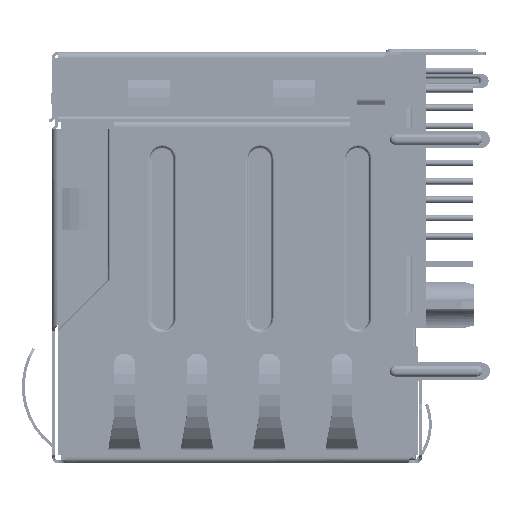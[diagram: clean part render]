
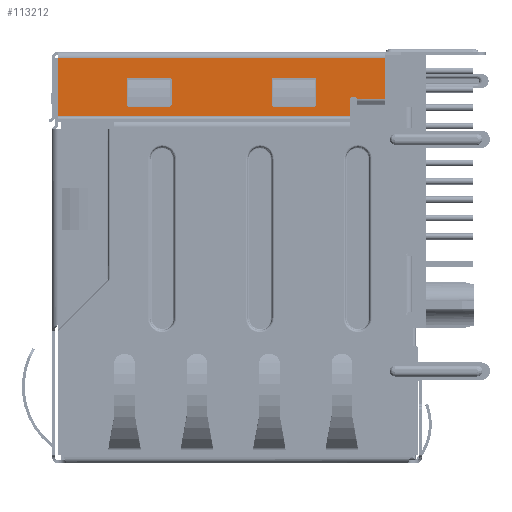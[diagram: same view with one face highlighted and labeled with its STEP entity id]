
A CAD part, front view. The second image highlights one B-rep face of the part: STEP entity #113212.
In plain terms, the highlighted planar face has unit normal (0, -1, 0) as drawn and (1, 0, 0) by its records, which use the part's own axes.
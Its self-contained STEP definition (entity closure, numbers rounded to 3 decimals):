
#100820=DIRECTION('',(0.,1.,0.));
#100821=VECTOR('',#100820,22.6);
#100822=CARTESIAN_POINT('',(57.53,-11.5,0.4));
#100823=LINE('',#100822,#100821);
#104894=DIRECTION('',(0.,0.,1.));
#104895=VECTOR('',#104894,1.7);
#104896=CARTESIAN_POINT('',(57.53,6.35,1.95));
#104897=LINE('',#104896,#104895);
#104898=CARTESIAN_POINT('',(57.53,6.2,3.65));
#104899=DIRECTION('',(-1.,0.,0.));
#104900=DIRECTION('',(0.,0.,1.));
#104901=AXIS2_PLACEMENT_3D('',#104898,#104899,#104900);
#104903=DIRECTION('',(0.,-1.,0.));
#104904=VECTOR('',#104903,2.8);
#104905=CARTESIAN_POINT('',(57.53,6.2,3.8));
#104906=LINE('',#104905,#104904);
#104907=CARTESIAN_POINT('',(57.53,3.4,3.65));
#104908=DIRECTION('',(-1.,0.,0.));
#104909=DIRECTION('',(0.,-1.,0.));
#104910=AXIS2_PLACEMENT_3D('',#104907,#104908,#104909);
#104912=DIRECTION('',(0.,0.,-1.));
#104913=VECTOR('',#104912,1.7);
#104914=CARTESIAN_POINT('',(57.53,3.25,3.65));
#104915=LINE('',#104914,#104913);
#104916=CARTESIAN_POINT('',(57.53,3.4,1.95));
#104917=DIRECTION('',(-1.,0.,0.));
#104918=DIRECTION('',(0.,0.,-1.));
#104919=AXIS2_PLACEMENT_3D('',#104916,#104917,#104918);
#104921=DIRECTION('',(0.,1.,0.));
#104922=VECTOR('',#104921,2.8);
#104923=CARTESIAN_POINT('',(57.53,3.4,1.8));
#104924=LINE('',#104923,#104922);
#104925=CARTESIAN_POINT('',(57.53,6.2,1.95));
#104926=DIRECTION('',(-1.,0.,0.));
#104927=DIRECTION('',(0.,1.,0.));
#104928=AXIS2_PLACEMENT_3D('',#104925,#104926,#104927);
#104930=DIRECTION('',(0.,0.,1.));
#104931=VECTOR('',#104930,1.7);
#104932=CARTESIAN_POINT('',(57.53,-3.65,1.95));
#104933=LINE('',#104932,#104931);
#104934=CARTESIAN_POINT('',(57.53,-3.8,3.65));
#104935=DIRECTION('',(-1.,0.,0.));
#104936=DIRECTION('',(0.,0.,1.));
#104937=AXIS2_PLACEMENT_3D('',#104934,#104935,#104936);
#104939=DIRECTION('',(0.,-1.,0.));
#104940=VECTOR('',#104939,2.8);
#104941=CARTESIAN_POINT('',(57.53,-3.8,3.8));
#104942=LINE('',#104941,#104940);
#104943=CARTESIAN_POINT('',(57.53,-6.6,3.65));
#104944=DIRECTION('',(-1.,0.,0.));
#104945=DIRECTION('',(0.,-1.,0.));
#104946=AXIS2_PLACEMENT_3D('',#104943,#104944,#104945);
#104948=DIRECTION('',(0.,0.,-1.));
#104949=VECTOR('',#104948,1.7);
#104950=CARTESIAN_POINT('',(57.53,-6.75,3.65));
#104951=LINE('',#104950,#104949);
#104952=CARTESIAN_POINT('',(57.53,-6.6,1.95));
#104953=DIRECTION('',(-1.,0.,0.));
#104954=DIRECTION('',(0.,0.,-1.));
#104955=AXIS2_PLACEMENT_3D('',#104952,#104953,#104954);
#104957=DIRECTION('',(0.,1.,0.));
#104958=VECTOR('',#104957,2.8);
#104959=CARTESIAN_POINT('',(57.53,-6.6,1.8));
#104960=LINE('',#104959,#104958);
#104961=CARTESIAN_POINT('',(57.53,-3.8,1.95));
#104962=DIRECTION('',(-1.,0.,0.));
#104963=DIRECTION('',(0.,1.,0.));
#104964=AXIS2_PLACEMENT_3D('',#104961,#104962,#104963);
#104966=DIRECTION('',(0.,0.,1.));
#104967=VECTOR('',#104966,4.05);
#104968=CARTESIAN_POINT('',(57.53,11.1,0.4));
#104969=LINE('',#104968,#104967);
#104970=DIRECTION('',(0.,0.,-1.));
#104971=VECTOR('',#104970,2.889);
#104972=CARTESIAN_POINT('',(57.53,-11.5,3.289));
#104973=LINE('',#104972,#104971);
#104974=DIRECTION('',(0.,0.,-1.));
#104975=VECTOR('',#104974,1.1);
#104976=CARTESIAN_POINT('',(57.53,-9.05,4.45));
#104977=LINE('',#104976,#104975);
#105038=DIRECTION('',(0.,-1.,0.));
#105039=VECTOR('',#105038,20.15);
#105040=CARTESIAN_POINT('',(57.53,11.1,4.45));
#105041=LINE('',#105040,#105039);
#105094=CARTESIAN_POINT('',(57.53,-9.3,3.35));
#105095=DIRECTION('',(-1.,0.,0.));
#105096=DIRECTION('',(0.,1.,0.));
#105097=AXIS2_PLACEMENT_3D('',#105094,#105095,#105096);
#105119=CARTESIAN_POINT('',(57.53,-9.543,3.289));
#105125=DIRECTION('',(0.,-1.,0.));
#105126=VECTOR('',#105125,1.957);
#105127=CARTESIAN_POINT('',(57.53,-9.543,3.289));
#105128=LINE('',#105127,#105126);
#105718=CARTESIAN_POINT('',(57.53,-11.5,0.4));
#105720=VERTEX_POINT('',#105718);
#105738=CARTESIAN_POINT('',(57.53,-9.05,4.45));
#105739=VERTEX_POINT('',#105738);
#105740=CARTESIAN_POINT('',(57.53,11.1,4.45));
#105741=VERTEX_POINT('',#105740);
#105748=CARTESIAN_POINT('',(57.53,11.1,0.4));
#105749=VERTEX_POINT('',#105748);
#105846=CARTESIAN_POINT('',(57.53,6.35,1.95));
#105847=CARTESIAN_POINT('',(57.53,6.35,3.65));
#105848=VERTEX_POINT('',#105846);
#105849=VERTEX_POINT('',#105847);
#105850=CARTESIAN_POINT('',(57.53,6.2,3.8));
#105851=CARTESIAN_POINT('',(57.53,3.4,3.8));
#105852=VERTEX_POINT('',#105850);
#105853=VERTEX_POINT('',#105851);
#105854=CARTESIAN_POINT('',(57.53,3.25,3.65));
#105855=CARTESIAN_POINT('',(57.53,3.25,1.95));
#105856=VERTEX_POINT('',#105854);
#105857=VERTEX_POINT('',#105855);
#105858=CARTESIAN_POINT('',(57.53,3.4,1.8));
#105859=CARTESIAN_POINT('',(57.53,6.2,1.8));
#105860=VERTEX_POINT('',#105858);
#105861=VERTEX_POINT('',#105859);
#105862=CARTESIAN_POINT('',(57.53,-3.65,1.95));
#105863=CARTESIAN_POINT('',(57.53,-3.65,3.65));
#105864=VERTEX_POINT('',#105862);
#105865=VERTEX_POINT('',#105863);
#105866=CARTESIAN_POINT('',(57.53,-3.8,3.8));
#105867=CARTESIAN_POINT('',(57.53,-6.6,3.8));
#105868=VERTEX_POINT('',#105866);
#105869=VERTEX_POINT('',#105867);
#105870=CARTESIAN_POINT('',(57.53,-6.75,3.65));
#105871=CARTESIAN_POINT('',(57.53,-6.75,1.95));
#105872=VERTEX_POINT('',#105870);
#105873=VERTEX_POINT('',#105871);
#105874=CARTESIAN_POINT('',(57.53,-6.6,1.8));
#105875=CARTESIAN_POINT('',(57.53,-3.8,1.8));
#105876=VERTEX_POINT('',#105874);
#105877=VERTEX_POINT('',#105875);
#106079=CARTESIAN_POINT('',(57.53,-11.5,3.289));
#106081=VERTEX_POINT('',#106079);
#106097=CARTESIAN_POINT('',(57.53,-9.05,3.35));
#106098=VERTEX_POINT('',#106097);
#106103=VERTEX_POINT('',#105119);
#113157=CARTESIAN_POINT('',(57.53,11.1,0.));
#113158=DIRECTION('',(1.,0.,0.));
#113159=DIRECTION('',(0.,1.,0.));
#113160=AXIS2_PLACEMENT_3D('',#113157,#113158,#113159);
#113161=PLANE('',#113160);
#113163=ORIENTED_EDGE('',*,*,#113162,.F.);
#113165=ORIENTED_EDGE('',*,*,#113164,.F.);
#113166=ORIENTED_EDGE('',*,*,#107298,.F.);
#113168=ORIENTED_EDGE('',*,*,#113167,.F.);
#113170=ORIENTED_EDGE('',*,*,#113169,.F.);
#113172=ORIENTED_EDGE('',*,*,#113171,.F.);
#113174=ORIENTED_EDGE('',*,*,#113173,.F.);
#113175=EDGE_LOOP('',(#113163,#113165,#113166,#113168,#113170,#113172,#113174));
#113176=FACE_OUTER_BOUND('',#113175,.F.);
#113177=ORIENTED_EDGE('',*,*,#113147,.T.);
#113179=ORIENTED_EDGE('',*,*,#113178,.F.);
#113181=ORIENTED_EDGE('',*,*,#113180,.T.);
#113183=ORIENTED_EDGE('',*,*,#113182,.F.);
#113185=ORIENTED_EDGE('',*,*,#113184,.T.);
#113187=ORIENTED_EDGE('',*,*,#113186,.F.);
#113189=ORIENTED_EDGE('',*,*,#113188,.T.);
#113191=ORIENTED_EDGE('',*,*,#113190,.F.);
#113192=EDGE_LOOP('',(#113177,#113179,#113181,#113183,#113185,#113187,#113189,
#113191));
#113193=FACE_BOUND('',#113192,.F.);
#113195=ORIENTED_EDGE('',*,*,#113194,.T.);
#113197=ORIENTED_EDGE('',*,*,#113196,.F.);
#113199=ORIENTED_EDGE('',*,*,#113198,.T.);
#113201=ORIENTED_EDGE('',*,*,#113200,.F.);
#113203=ORIENTED_EDGE('',*,*,#113202,.T.);
#113205=ORIENTED_EDGE('',*,*,#113204,.F.);
#113207=ORIENTED_EDGE('',*,*,#113206,.T.);
#113209=ORIENTED_EDGE('',*,*,#113208,.F.);
#113210=EDGE_LOOP('',(#113195,#113197,#113199,#113201,#113203,#113205,#113207,
#113209));
#113211=FACE_BOUND('',#113210,.F.);
#113212=ADVANCED_FACE('',(#113176,#113193,#113211),#113161,.T.);
#104902=CIRCLE('',#104901,0.15);
#104911=CIRCLE('',#104910,0.15);
#104920=CIRCLE('',#104919,0.15);
#104929=CIRCLE('',#104928,0.15);
#104938=CIRCLE('',#104937,0.15);
#104947=CIRCLE('',#104946,0.15);
#104956=CIRCLE('',#104955,0.15);
#104965=CIRCLE('',#104964,0.15);
#105098=CIRCLE('',#105097,0.25);
#107298=EDGE_CURVE('',#105720,#105749,#100823,.T.);
#113147=EDGE_CURVE('',#105864,#105865,#104933,.T.);
#113162=EDGE_CURVE('',#105741,#105739,#105041,.T.);
#113164=EDGE_CURVE('',#105749,#105741,#104969,.T.);
#113167=EDGE_CURVE('',#106081,#105720,#104973,.T.);
#113169=EDGE_CURVE('',#106103,#106081,#105128,.T.);
#113171=EDGE_CURVE('',#106098,#106103,#105098,.T.);
#113173=EDGE_CURVE('',#105739,#106098,#104977,.T.);
#113178=EDGE_CURVE('',#105868,#105865,#104938,.T.);
#113180=EDGE_CURVE('',#105868,#105869,#104942,.T.);
#113182=EDGE_CURVE('',#105872,#105869,#104947,.T.);
#113184=EDGE_CURVE('',#105872,#105873,#104951,.T.);
#113186=EDGE_CURVE('',#105876,#105873,#104956,.T.);
#113188=EDGE_CURVE('',#105876,#105877,#104960,.T.);
#113190=EDGE_CURVE('',#105864,#105877,#104965,.T.);
#113194=EDGE_CURVE('',#105848,#105849,#104897,.T.);
#113196=EDGE_CURVE('',#105852,#105849,#104902,.T.);
#113198=EDGE_CURVE('',#105852,#105853,#104906,.T.);
#113200=EDGE_CURVE('',#105856,#105853,#104911,.T.);
#113202=EDGE_CURVE('',#105856,#105857,#104915,.T.);
#113204=EDGE_CURVE('',#105860,#105857,#104920,.T.);
#113206=EDGE_CURVE('',#105860,#105861,#104924,.T.);
#113208=EDGE_CURVE('',#105848,#105861,#104929,.T.);
